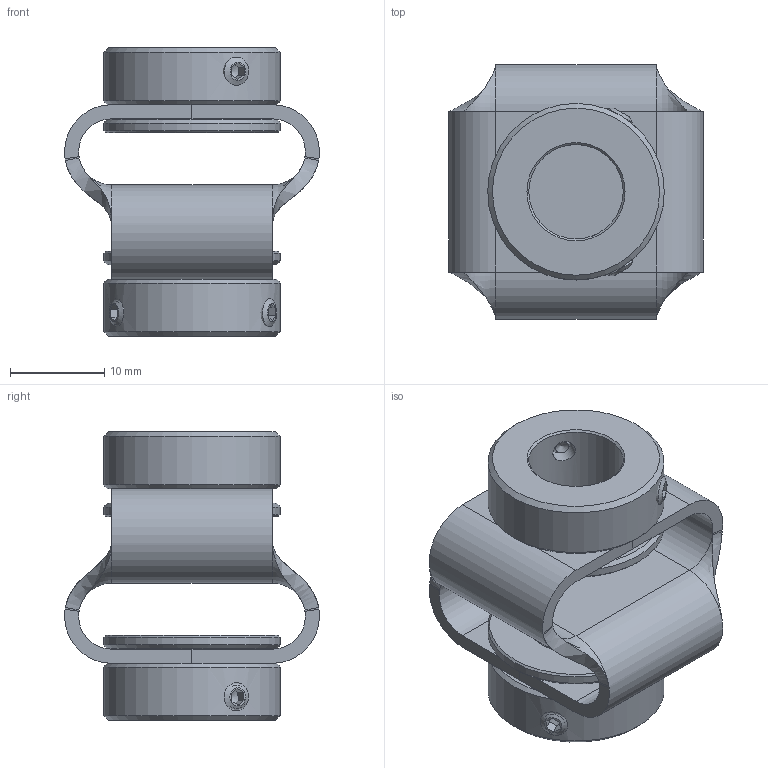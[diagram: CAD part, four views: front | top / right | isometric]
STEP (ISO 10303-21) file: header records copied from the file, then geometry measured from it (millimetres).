
FILE_DESCRIPTION(/* description */ ('Stern '),/* implementation_level */ '2;1');
FILE_NAME(/* name */ 'Z:\ABP-Antriebstechnik\Entwicklung-3D\Paguflex\DKPSF\DKPSF2928 10 10.stp',/* time_stamp */ '2024-03-11T13:01:49+01:00',/* author */ ('christian.fehrenbach'),/* organization */ (''),/* preprocessor_version */ 'ST-DEVELOPER v16.1',/* originating_system */ 'Autodesk Inventor 2016',/* authorisation */ '');
FILE_SCHEMA (('AUTOMOTIVE_DESIGN { 1 0 10303 214 3 1 1 }'));
Length unit declared in the file: millimetre
Products named in the file (4): Stern DKPSF2928 gebogen; Schraubnabe 1909 10; ISO 4029 - M3 x 4 - ISO; DKPSF2928 10 10
Assembly tree (7 placements, depth 2):
  DKPSF2928 10 10
    Stern DKPSF2928 gebogen
    Schraubnabe 1909 10  x2
    ISO 4029 - M3 x 4 - ISO  x4
Bounding box: 27 x 27 x 30.6 mm (x, y, z)
Volume: 5324.6 mm3; surface area: 6530.2 mm2
Topology: 7 solids, 11 shells, 162 faces, 348 edges, 198 vertices
Faces by surface type: plane 84, cylinder 30, cone 28, bspline 12, torus 8
Full cylindrical faces by diameter (mm): 2.459 x4, 3 x4, 10 x2, 12.5 x2, 14 x2, 18.7 x4
Entity records: 2932 total; most frequent: CARTESIAN_POINT 957, DIRECTION 388, ORIENTED_EDGE 372, EDGE_CURVE 178, AXIS2_PLACEMENT_3D 155, EDGE_LOOP 116, VERTEX_POINT 110, FACE_OUTER_BOUND 90
